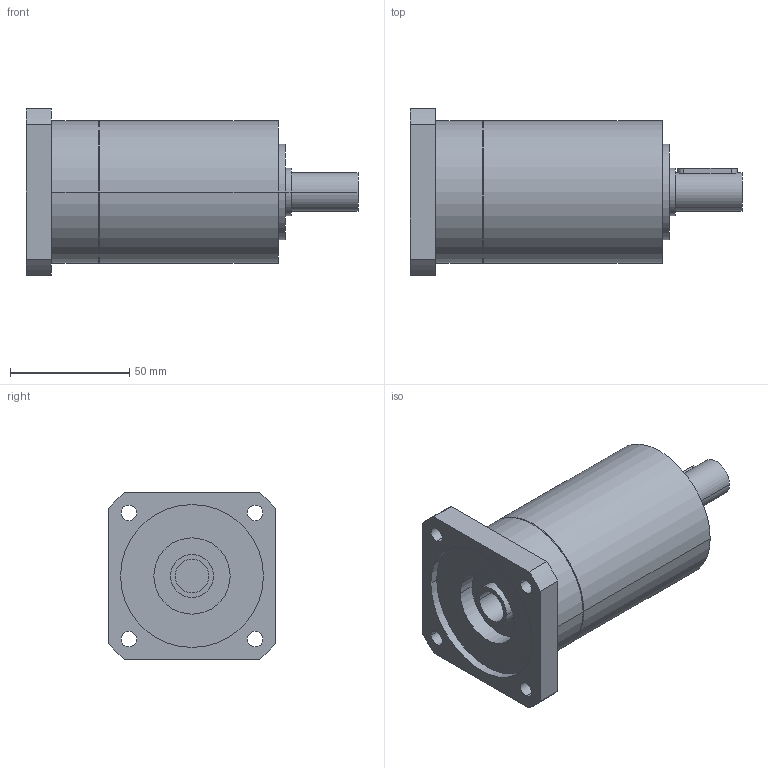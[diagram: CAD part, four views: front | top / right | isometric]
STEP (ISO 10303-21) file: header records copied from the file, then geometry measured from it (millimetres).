
FILE_DESCRIPTION(('CoCreate Modeling STEP Export'),'2;1');
FILE_NAME('GPR75_ig-9-12-16-20-24-30-36_16_B14_14_P04.stp','2014-08-25T16:45:08',(''),(''),'CoCreate Modeling STEP processor for AP214 (Solid Model)','CoCreate Modeling 16.00C 25-Feb-2009 (C) Parametric Technology GmbH','');
FILE_SCHEMA(('AUTOMOTIVE_DESIGN { 1 0 10303 214 1 1 1 1 }'));
Length unit declared in the file: millimetre
Products named in the file (2): GPR75_ig-9-12-16-20-24-30-36_16_B14_14_P04
Assembly tree (1 placements, depth 2):
  GPR75_ig-9-12-16-20-24-30-36_16_B14_14_P04
    GPR75_ig-9-12-16-20-24-30-36_16_B14_14_P04
Bounding box: 139.4 x 70 x 70 mm (x, y, z)
Volume: 309596.6 mm3; surface area: 36884.5 mm2
Topology: 1 solids, 1 shells, 70 faces, 188 edges, 132 vertices
Faces by surface type: cylinder 42, plane 22, cone 6
Entity records: 1939 total; most frequent: ORIENTED_EDGE 372, CARTESIAN_POINT 360, DIRECTION 262, EDGE_CURVE 186, VERTEX_POINT 132, AXIS2_PLACEMENT_3D 98, EDGE_LOOP 92, FACE_OUTER_BOUND 70
